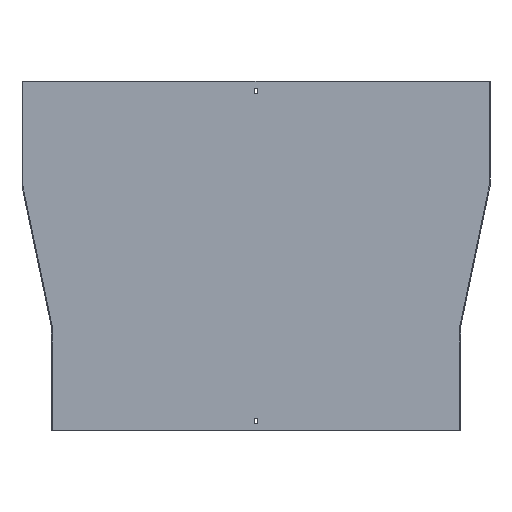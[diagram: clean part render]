
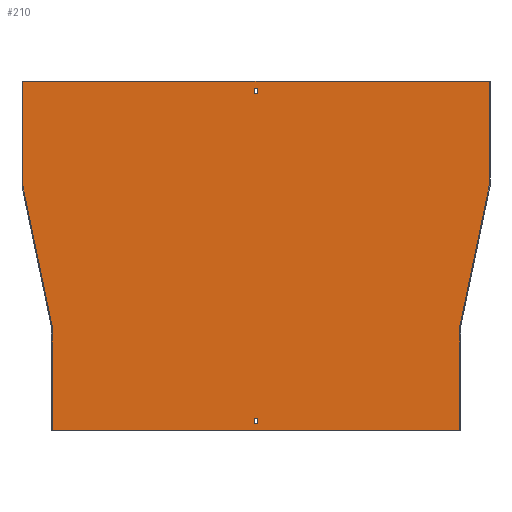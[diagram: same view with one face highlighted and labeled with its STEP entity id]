
A CAD part, front view. The second image highlights one B-rep face of the part: STEP entity #210.
In plain terms, the highlighted planar face has unit normal (0, -1, 0).
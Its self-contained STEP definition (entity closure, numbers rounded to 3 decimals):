
#1 = CARTESIAN_POINT ( 'NONE',  ( -3.25, -1.5, 0. ) ) ;
#7 = AXIS2_PLACEMENT_3D ( 'NONE', #434, #286, #427 ) ;
#30 = LINE ( 'NONE', #759, #853 ) ;
#35 = VERTEX_POINT ( 'NONE', #539 ) ;
#46 = LINE ( 'NONE', #1, #143 ) ;
#51 = VECTOR ( 'NONE', #598, 1000. ) ;
#52 = EDGE_LOOP ( 'NONE', ( #222, #774, #436, #447 ) ) ;
#73 = CARTESIAN_POINT ( 'NONE',  ( 400., -1.5, 0. ) ) ;
#77 = VECTOR ( 'NONE', #397, 1000. ) ;
#78 = DIRECTION ( 'NONE',  ( 1., 0., 0. ) ) ;
#81 = CARTESIAN_POINT ( 'NONE',  ( 0., -1.5, -588. ) ) ;
#89 = CARTESIAN_POINT ( 'NONE',  ( -3.25, -1.5, -12. ) ) ;
#93 = VECTOR ( 'NONE', #344, 1000. ) ;
#110 = EDGE_CURVE ( 'NONE', #174, #35, #607, .T. ) ;
#116 = VERTEX_POINT ( 'NONE', #616 ) ;
#128 = VECTOR ( 'NONE', #486, 1000. ) ;
#130 = LINE ( 'NONE', #336, #636 ) ;
#134 = CARTESIAN_POINT ( 'NONE',  ( 0., -1.5, -12. ) ) ;
#140 = CARTESIAN_POINT ( 'NONE',  ( 0., -1.5, -579. ) ) ;
#142 = VERTEX_POINT ( 'NONE', #89 ) ;
#143 = VECTOR ( 'NONE', #305, 1000. ) ;
#151 = FACE_OUTER_BOUND ( 'NONE', #678, .T. ) ;
#152 = VERTEX_POINT ( 'NONE', #295 ) ;
#162 = EDGE_CURVE ( 'NONE', #720, #165, #566, .T. ) ;
#165 = VERTEX_POINT ( 'NONE', #756 ) ;
#169 = VERTEX_POINT ( 'NONE', #638 ) ;
#174 = VERTEX_POINT ( 'NONE', #575 ) ;
#183 = LINE ( 'NONE', #387, #709 ) ;
#190 = LINE ( 'NONE', #134, #51 ) ;
#197 = CARTESIAN_POINT ( 'NONE',  ( -350., -1.5, -420. ) ) ;
#210 = ADVANCED_FACE ( 'NONE', ( #224, #151, #422 ), #621, .T. ) ;
#215 = EDGE_CURVE ( 'NONE', #377, #463, #816, .T. ) ;
#221 = CARTESIAN_POINT ( 'NONE',  ( 400., -1.5, -180. ) ) ;
#222 = ORIENTED_EDGE ( 'NONE', *, *, #842, .F. ) ;
#224 = FACE_BOUND ( 'NONE', #52, .T. ) ;
#226 = EDGE_CURVE ( 'NONE', #656, #116, #30, .T. ) ;
#229 = VECTOR ( 'NONE', #292, 1000. ) ;
#233 = VERTEX_POINT ( 'NONE', #819 ) ;
#234 = CARTESIAN_POINT ( 'NONE',  ( -400.032, -1.5, -179.694 ) ) ;
#239 = CARTESIAN_POINT ( 'NONE',  ( 350., -1.5, -419.845 ) ) ;
#241 = VERTEX_POINT ( 'NONE', #848 ) ;
#247 = ORIENTED_EDGE ( 'NONE', *, *, #481, .F. ) ;
#249 = VERTEX_POINT ( 'NONE', #651 ) ;
#274 = DIRECTION ( 'NONE',  ( 0., 0., -1. ) ) ;
#277 = ORIENTED_EDGE ( 'NONE', *, *, #681, .T. ) ;
#286 = DIRECTION ( 'NONE',  ( 0., -1., 0. ) ) ;
#290 = DIRECTION ( 'NONE',  ( -0.204, 0., 0.979 ) ) ;
#292 = DIRECTION ( 'NONE',  ( 0., 0., -1. ) ) ;
#295 = CARTESIAN_POINT ( 'NONE',  ( 350., -1.5, -600. ) ) ;
#305 = DIRECTION ( 'NONE',  ( 0., 0., 1. ) ) ;
#311 = ORIENTED_EDGE ( 'NONE', *, *, #110, .F. ) ;
#329 = EDGE_CURVE ( 'NONE', #233, #241, #183, .T. ) ;
#335 = EDGE_LOOP ( 'NONE', ( #779, #277, #723, #761 ) ) ;
#336 = CARTESIAN_POINT ( 'NONE',  ( -351.5, -1.5, -600. ) ) ;
#342 = CARTESIAN_POINT ( 'NONE',  ( 400., -1.5, -179.845 ) ) ;
#344 = DIRECTION ( 'NONE',  ( 0., 0., 1. ) ) ;
#346 = CARTESIAN_POINT ( 'NONE',  ( 350.032, -1.5, -419.694 ) ) ;
#350 = DIRECTION ( 'NONE',  ( -1., 0., 0. ) ) ;
#356 = LINE ( 'NONE', #409, #441 ) ;
#359 = CARTESIAN_POINT ( 'NONE',  ( 3.25, -1.5, -12. ) ) ;
#363 = LINE ( 'NONE', #234, #773 ) ;
#367 = EDGE_CURVE ( 'NONE', #249, #720, #530, .T. ) ;
#369 = DIRECTION ( 'NONE',  ( 1., 0., 0. ) ) ;
#375 = CARTESIAN_POINT ( 'NONE',  ( 3.25, -1.5, 0. ) ) ;
#377 = VERTEX_POINT ( 'NONE', #73 ) ;
#379 = DIRECTION ( 'NONE',  ( 0., 0., 1. ) ) ;
#383 = ORIENTED_EDGE ( 'NONE', *, *, #611, .F. ) ;
#385 = EDGE_CURVE ( 'NONE', #152, #174, #130, .T. ) ;
#387 = CARTESIAN_POINT ( 'NONE',  ( -400., -1.5, 0. ) ) ;
#397 = DIRECTION ( 'NONE',  ( 1., 0., 0. ) ) ;
#409 = CARTESIAN_POINT ( 'NONE',  ( -3.25, -1.5, 0. ) ) ;
#414 = LINE ( 'NONE', #614, #128 ) ;
#416 = LINE ( 'NONE', #680, #77 ) ;
#422 = FACE_BOUND ( 'NONE', #335, .T. ) ;
#424 = ORIENTED_EDGE ( 'NONE', *, *, #329, .F. ) ;
#427 = DIRECTION ( 'NONE',  ( 0., 0., -1. ) ) ;
#434 = CARTESIAN_POINT ( 'NONE',  ( 0., -1.5, 0. ) ) ;
#436 = ORIENTED_EDGE ( 'NONE', *, *, #825, .F. ) ;
#437 = LINE ( 'NONE', #482, #786 ) ;
#441 = VECTOR ( 'NONE', #274, 1000. ) ;
#447 = ORIENTED_EDGE ( 'NONE', *, *, #226, .F. ) ;
#463 = VERTEX_POINT ( 'NONE', #342 ) ;
#472 = LINE ( 'NONE', #81, #850 ) ;
#477 = DIRECTION ( 'NONE',  ( -1., 0., 0. ) ) ;
#479 = VECTOR ( 'NONE', #488, 1000. ) ;
#481 = EDGE_CURVE ( 'NONE', #241, #377, #416, .T. ) ;
#482 = CARTESIAN_POINT ( 'NONE',  ( 350., -1.5, -600. ) ) ;
#486 = DIRECTION ( 'NONE',  ( 0., 0., 1. ) ) ;
#488 = DIRECTION ( 'NONE',  ( 0., 0., -1. ) ) ;
#511 = CARTESIAN_POINT ( 'NONE',  ( -3.25, -1.5, -21. ) ) ;
#526 = EDGE_CURVE ( 'NONE', #714, #152, #437, .T. ) ;
#529 = CARTESIAN_POINT ( 'NONE',  ( 3.25, -1.5, -579. ) ) ;
#530 = LINE ( 'NONE', #140, #675 ) ;
#539 = CARTESIAN_POINT ( 'NONE',  ( -350., -1.5, -419.845 ) ) ;
#546 = DIRECTION ( 'NONE',  ( -0.204, 0., -0.979 ) ) ;
#566 = LINE ( 'NONE', #375, #229 ) ;
#575 = CARTESIAN_POINT ( 'NONE',  ( -350., -1.5, -600. ) ) ;
#594 = VERTEX_POINT ( 'NONE', #359 ) ;
#598 = DIRECTION ( 'NONE',  ( -1., 0., 0. ) ) ;
#607 = LINE ( 'NONE', #197, #93 ) ;
#608 = ORIENTED_EDGE ( 'NONE', *, *, #831, .F. ) ;
#611 = EDGE_CURVE ( 'NONE', #35, #233, #363, .T. ) ;
#614 = CARTESIAN_POINT ( 'NONE',  ( 3.25, -1.5, 0. ) ) ;
#616 = CARTESIAN_POINT ( 'NONE',  ( 3.25, -1.5, -21. ) ) ;
#619 = DIRECTION ( 'NONE',  ( 0., 0., -1. ) ) ;
#621 = PLANE ( 'NONE',  #7 ) ;
#626 = ORIENTED_EDGE ( 'NONE', *, *, #526, .F. ) ;
#636 = VECTOR ( 'NONE', #477, 1000. ) ;
#638 = CARTESIAN_POINT ( 'NONE',  ( -3.25, -1.5, -588. ) ) ;
#651 = CARTESIAN_POINT ( 'NONE',  ( -3.25, -1.5, -579. ) ) ;
#656 = VERTEX_POINT ( 'NONE', #511 ) ;
#675 = VECTOR ( 'NONE', #78, 1000. ) ;
#678 = EDGE_LOOP ( 'NONE', ( #247, #424, #383, #311, #796, #626, #608, #712 ) ) ;
#679 = LINE ( 'NONE', #346, #809 ) ;
#680 = CARTESIAN_POINT ( 'NONE',  ( 401.5, -1.5, 0. ) ) ;
#681 = EDGE_CURVE ( 'NONE', #169, #249, #46, .T. ) ;
#709 = VECTOR ( 'NONE', #379, 1000. ) ;
#712 = ORIENTED_EDGE ( 'NONE', *, *, #215, .F. ) ;
#714 = VERTEX_POINT ( 'NONE', #239 ) ;
#720 = VERTEX_POINT ( 'NONE', #529 ) ;
#723 = ORIENTED_EDGE ( 'NONE', *, *, #367, .T. ) ;
#725 = EDGE_CURVE ( 'NONE', #594, #142, #190, .T. ) ;
#756 = CARTESIAN_POINT ( 'NONE',  ( 3.25, -1.5, -588. ) ) ;
#759 = CARTESIAN_POINT ( 'NONE',  ( 0., -1.5, -21. ) ) ;
#761 = ORIENTED_EDGE ( 'NONE', *, *, #162, .T. ) ;
#771 = EDGE_CURVE ( 'NONE', #165, #169, #472, .T. ) ;
#773 = VECTOR ( 'NONE', #290, 1000. ) ;
#774 = ORIENTED_EDGE ( 'NONE', *, *, #725, .F. ) ;
#779 = ORIENTED_EDGE ( 'NONE', *, *, #771, .T. ) ;
#786 = VECTOR ( 'NONE', #619, 1000. ) ;
#796 = ORIENTED_EDGE ( 'NONE', *, *, #385, .F. ) ;
#809 = VECTOR ( 'NONE', #546, 1000. ) ;
#816 = LINE ( 'NONE', #221, #479 ) ;
#819 = CARTESIAN_POINT ( 'NONE',  ( -400., -1.5, -179.845 ) ) ;
#825 = EDGE_CURVE ( 'NONE', #116, #594, #414, .T. ) ;
#831 = EDGE_CURVE ( 'NONE', #463, #714, #679, .T. ) ;
#842 = EDGE_CURVE ( 'NONE', #142, #656, #356, .T. ) ;
#848 = CARTESIAN_POINT ( 'NONE',  ( -400., -1.5, 0. ) ) ;
#850 = VECTOR ( 'NONE', #350, 1000. ) ;
#853 = VECTOR ( 'NONE', #369, 1000. ) ;
